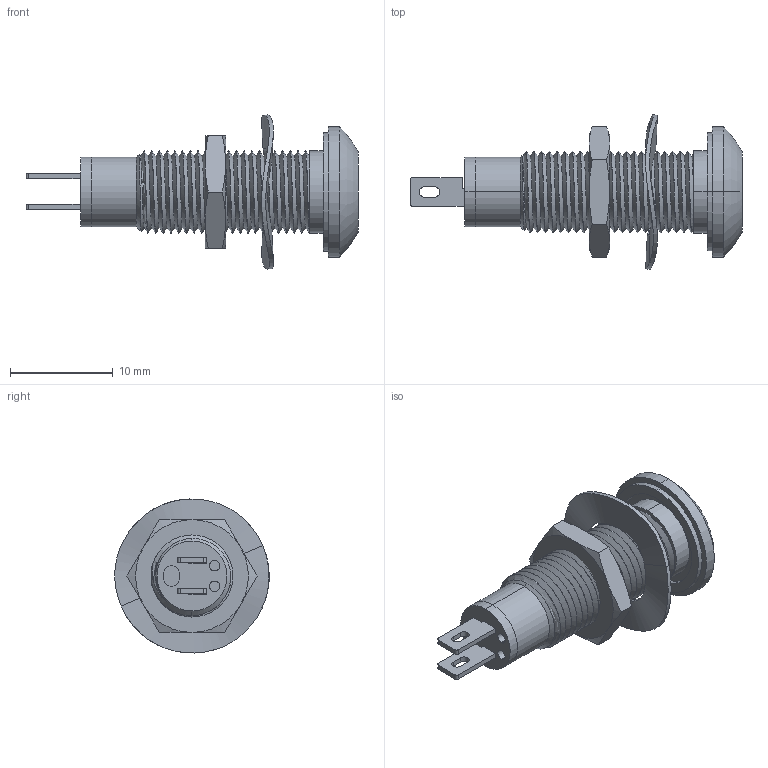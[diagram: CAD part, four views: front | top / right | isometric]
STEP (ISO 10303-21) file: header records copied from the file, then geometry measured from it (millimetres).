
FILE_DESCRIPTION (( 'STEP AP203' ), '1' );
FILE_NAME ('524series.STEP', '2013-09-13T11:56:51', ( 'mark' ), ( '' ), 'SwSTEP 2.0', 'SolidWorks 2013', '' );
FILE_SCHEMA (( 'CONFIG_CONTROL_DESIGN' ));
Length unit declared in the file: millimetre
Products named in the file (8): 524series; COM4998; COM4999; COM7808_NEW; COM7807HALFTAG; COM4300; M8SSCWASHERB; COM3577
Assembly tree (8 placements, depth 2):
  524series
    COM4998
    COM4999
    COM7808_NEW
    COM7807HALFTAG  x2
    COM4300
    M8SSCWASHERB
    COM3577
Bounding box: 32.35 x 15.03 x 15.01 mm (x, y, z)
Volume: 825.7 mm3; surface area: 2706.3 mm2
Topology: 8 solids, 8 shells, 339 faces, 788 edges, 488 vertices
Faces by surface type: cylinder 129, torus 94, plane 92, cone 14, bspline 10
Entity records: 13496 total; most frequent: CARTESIAN_POINT 5410, DIRECTION 1612, ORIENTED_EDGE 1474, EDGE_CURVE 737, AXIS2_PLACEMENT_3D 683, VERTEX_POINT 454, EDGE_LOOP 363, CIRCLE 362
